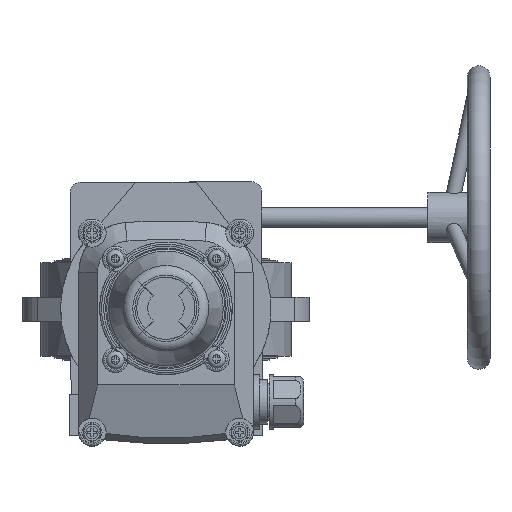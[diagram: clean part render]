
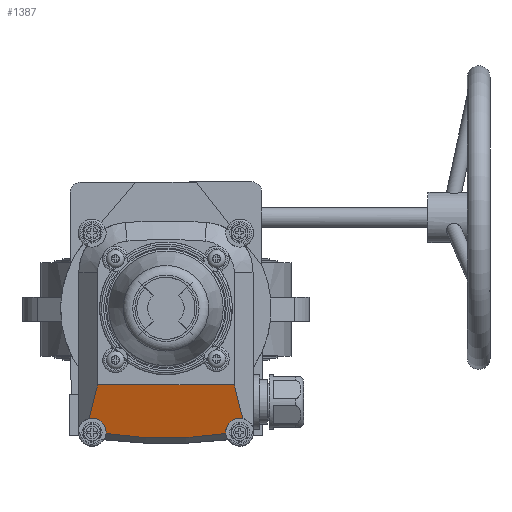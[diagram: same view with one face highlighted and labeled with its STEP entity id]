
A CAD part, top view. The second image highlights one B-rep face of the part: STEP entity #1387.
In plain terms, the highlighted planar face has unit normal (0, -0.287, 0.958).
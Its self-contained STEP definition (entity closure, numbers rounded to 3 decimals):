
#1387=ADVANCED_FACE('',(#14470),#14472,.T.);
#14470=FACE_BOUND('',#14471,.T.);
#14471=EDGE_LOOP('',(#25459,#25460,#25461,#25462,#25463,#25464));
#14472=PLANE('',#14473);
#14473=AXIS2_PLACEMENT_3D('',#14474,#14475,#14476);
#14474=CARTESIAN_POINT('',(2619.153,4532.517,-37.683));
#14475=DIRECTION('',(0.,-0.287,0.958));
#14476=DIRECTION('',(0.,0.958,0.287));
#25459=ORIENTED_EDGE('',*,*,#33658,.T.);
#25460=ORIENTED_EDGE('',*,*,#33657,.T.);
#25461=ORIENTED_EDGE('',*,*,#33734,.T.);
#25462=ORIENTED_EDGE('',*,*,#33998,.F.);
#25463=ORIENTED_EDGE('',*,*,#33736,.T.);
#25464=ORIENTED_EDGE('',*,*,#33999,.T.);
#33657=EDGE_CURVE('',#38274,#38279,#38281,.F.);
#33658=EDGE_CURVE('',#38282,#38274,#38283,.T.);
#33734=EDGE_CURVE('',#38279,#38417,#38419,.F.);
#33736=EDGE_CURVE('',#38423,#38420,#38424,.F.);
#33998=EDGE_CURVE('',#38423,#38417,#38881,.T.);
#33999=EDGE_CURVE('',#38420,#38282,#38882,.F.);
#38274=VERTEX_POINT('',#47393);
#38279=VERTEX_POINT('',#47419);
#38281=(BOUNDED_CURVE()B_SPLINE_CURVE(3,
(#47424,#47425,#47426,#47427),
.UNSPECIFIED.,.F.,.F.)B_SPLINE_CURVE_WITH_KNOTS((4,4),
(0.,1.),
.UNSPECIFIED.)CURVE()GEOMETRIC_REPRESENTATION_ITEM()RATIONAL_B_SPLINE_CURVE((1.,
0.734,0.734,1.))REPRESENTATION_ITEM(''));
#38282=VERTEX_POINT('',#47428);
#38283=B_SPLINE_CURVE_WITH_KNOTS('',3,
(#47429,#47430,#47431,#47432,#47433,#47434,#47435,#47436,#47437,#47438,#47439,#47440,
#47441,#47442,#47443,#47444,#47445,#47446,#47447,#47448,#47449,#47450,#47451,#47452,
#47453,#47454,#47455,#47456),
.UNSPECIFIED.,.F.,.F.,
(4,1,1,1,1,1,1,1,1,1,1,1,1,1,1,1,1,1,1,1,1,1,1,1,1,4),
(0.,0.051,0.101,0.151,0.201,0.25,
0.298,0.345,0.391,0.437,0.482,
0.5,0.525,0.567,0.609,0.648,
0.687,0.725,0.761,0.797,0.833,
0.867,0.901,0.934,0.967,1.),
.UNSPECIFIED.);
#38417=VERTEX_POINT('',#48156);
#38419=LINE('',#48160,#48161);
#38420=VERTEX_POINT('',#48163);
#38423=VERTEX_POINT('',#48169);
#38424=LINE('',#48170,#48171);
#38881=LINE('',#50367,#50368);
#38882=(BOUNDED_CURVE()B_SPLINE_CURVE(3,
(#50370,#50371,#50372,#50373),
.UNSPECIFIED.,.F.,.F.)B_SPLINE_CURVE_WITH_KNOTS((4,4),
(0.,1.),
.UNSPECIFIED.)CURVE()GEOMETRIC_REPRESENTATION_ITEM()RATIONAL_B_SPLINE_CURVE((1.,
0.734,0.734,1.))REPRESENTATION_ITEM(''));
#47393=CARTESIAN_POINT('',(2708.671,4505.248,-45.864));
#47419=CARTESIAN_POINT('',(2717.099,4512.597,-43.66));
#47424=CARTESIAN_POINT('',(2717.099,4512.597,-43.66));
#47425=CARTESIAN_POINT('',(2712.134,4513.644,-43.345));
#47426=CARTESIAN_POINT('',(2708.309,4510.309,-44.346));
#47427=CARTESIAN_POINT('',(2708.671,4505.248,-45.864));
#47428=CARTESIAN_POINT('',(2649.636,4505.248,-45.864));
#47429=CARTESIAN_POINT('',(2649.636,4505.248,-45.864));
#47430=CARTESIAN_POINT('',(2650.625,4505.088,-45.912));
#47431=CARTESIAN_POINT('',(2652.602,4504.786,-46.003));
#47432=CARTESIAN_POINT('',(2655.564,4504.381,-46.124));
#47433=CARTESIAN_POINT('',(2658.506,4504.027,-46.23));
#47434=CARTESIAN_POINT('',(2661.426,4503.723,-46.322));
#47435=CARTESIAN_POINT('',(2664.309,4503.469,-46.398));
#47436=CARTESIAN_POINT('',(2667.154,4503.262,-46.46));
#47437=CARTESIAN_POINT('',(2669.946,4503.103,-46.508));
#47438=CARTESIAN_POINT('',(2672.699,4502.986,-46.543));
#47439=CARTESIAN_POINT('',(2675.401,4502.912,-46.565));
#47440=CARTESIAN_POINT('',(2677.55,4502.884,-46.574));
#47441=CARTESIAN_POINT('',(2679.295,4502.879,-46.575));
#47442=CARTESIAN_POINT('',(2680.987,4502.886,-46.573));
#47443=CARTESIAN_POINT('',(2683.136,4502.918,-46.563));
#47444=CARTESIAN_POINT('',(2685.567,4502.986,-46.543));
#47445=CARTESIAN_POINT('',(2687.931,4503.084,-46.514));
#47446=CARTESIAN_POINT('',(2690.214,4503.207,-46.477));
#47447=CARTESIAN_POINT('',(2692.443,4503.354,-46.433));
#47448=CARTESIAN_POINT('',(2694.616,4503.523,-46.382));
#47449=CARTESIAN_POINT('',(2696.747,4503.714,-46.324));
#47450=CARTESIAN_POINT('',(2698.823,4503.924,-46.261));
#47451=CARTESIAN_POINT('',(2700.857,4504.153,-46.193));
#47452=CARTESIAN_POINT('',(2702.851,4504.399,-46.119));
#47453=CARTESIAN_POINT('',(2704.816,4504.664,-46.04));
#47454=CARTESIAN_POINT('',(2706.752,4504.945,-45.955));
#47455=CARTESIAN_POINT('',(2708.034,4505.145,-45.895));
#47456=CARTESIAN_POINT('',(2708.671,4505.248,-45.864));
#48156=CARTESIAN_POINT('',(2712.923,4529.184,-38.683));
#48160=CARTESIAN_POINT('',(2712.923,4529.184,-38.683));
#48161=VECTOR('',#48162,1.);
#48162=DIRECTION('',(0.234,-0.931,-0.279));
#48163=CARTESIAN_POINT('',(2641.208,4512.597,-43.66));
#48169=CARTESIAN_POINT('',(2645.383,4529.184,-38.683));
#48170=CARTESIAN_POINT('',(2641.208,4512.597,-43.66));
#48171=VECTOR('',#48172,1.);
#48172=DIRECTION('',(0.234,0.931,0.279));
#50367=CARTESIAN_POINT('',(2645.383,4529.184,-38.683));
#50368=VECTOR('',#50369,1.);
#50369=DIRECTION('',(1.,0.,0.));
#50370=CARTESIAN_POINT('',(2649.636,4505.248,-45.864));
#50371=CARTESIAN_POINT('',(2649.998,4510.309,-44.346));
#50372=CARTESIAN_POINT('',(2646.173,4513.644,-43.345));
#50373=CARTESIAN_POINT('',(2641.208,4512.597,-43.66));
